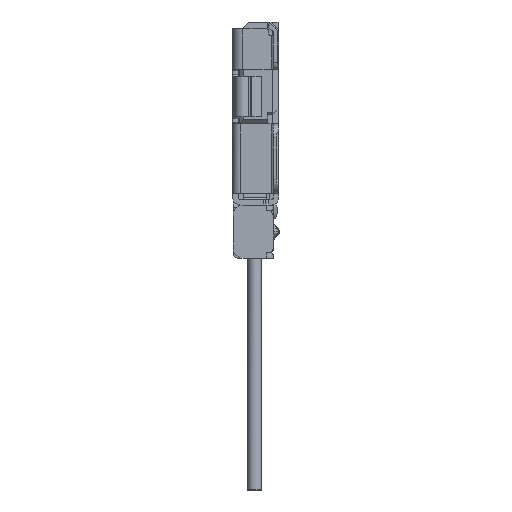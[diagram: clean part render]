
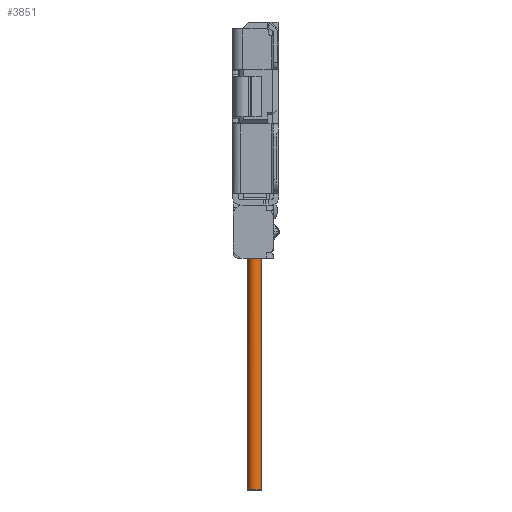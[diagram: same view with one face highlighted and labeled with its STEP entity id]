
A CAD part, left-side view. The second image highlights one B-rep face of the part: STEP entity #3851.
In plain terms, the highlighted cylindrical face has radius 0.155 mm (diameter 0.31 mm), a partial arc.
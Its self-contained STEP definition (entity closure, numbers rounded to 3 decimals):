
#51 = AXIS2_PLACEMENT_3D ( 'NONE', #26812, #32176, #43170 ) ;
#274 = DIRECTION ( 'NONE',  ( 0., 0., 1. ) ) ;
#892 = DIRECTION ( 'NONE',  ( 0., -1., 0. ) ) ;
#1001 = CARTESIAN_POINT ( 'NONE',  ( -4.75, 0.35, -2.47 ) ) ;
#3851 = ADVANCED_FACE ( 'NONE', ( #47129 ), #13537, .T. ) ;
#5783 = VERTEX_POINT ( 'NONE', #31870 ) ;
#5933 = ORIENTED_EDGE ( 'NONE', *, *, #43892, .F. ) ;
#8394 = EDGE_CURVE ( 'NONE', #68364, #49063, #17182, .T. ) ;
#9106 = LINE ( 'NONE', #32410, #29165 ) ;
#9646 = AXIS2_PLACEMENT_3D ( 'NONE', #58268, #52856, #63696 ) ;
#9834 = ORIENTED_EDGE ( 'NONE', *, *, #46546, .T. ) ;
#11499 = DIRECTION ( 'NONE',  ( 0., 0., 1. ) ) ;
#11524 = DIRECTION ( 'NONE',  ( 0., 0., -1. ) ) ;
#11607 = EDGE_CURVE ( 'NONE', #40379, #30812, #43159, .T. ) ;
#11950 = ORIENTED_EDGE ( 'NONE', *, *, #28896, .T. ) ;
#13537 = CYLINDRICAL_SURFACE ( 'NONE', #34856, 0.155 ) ;
#14842 = ORIENTED_EDGE ( 'NONE', *, *, #44666, .T. ) ;
#16944 = CARTESIAN_POINT ( 'NONE',  ( -4.75, 0.66, -7.6 ) ) ;
#17182 = CIRCLE ( 'NONE', #51, 0.155 ) ;
#18206 = EDGE_CURVE ( 'NONE', #30812, #68364, #54019, .T. ) ;
#18212 = VERTEX_POINT ( 'NONE', #67418 ) ;
#18579 = CARTESIAN_POINT ( 'NONE',  ( -4.75, 0.35, -7.6 ) ) ;
#18652 = ORIENTED_EDGE ( 'NONE', *, *, #18206, .T. ) ;
#19305 = VECTOR ( 'NONE', #48122, 1000. ) ;
#20760 = AXIS2_PLACEMENT_3D ( 'NONE', #54191, #59355, #37892 ) ;
#23140 = VECTOR ( 'NONE', #11524, 1000. ) ;
#23538 = CARTESIAN_POINT ( 'NONE',  ( -4.75, 0.35, -7.6 ) ) ;
#23765 = CIRCLE ( 'NONE', #20760, 0.155 ) ;
#25424 = VECTOR ( 'NONE', #29279, 1000. ) ;
#26812 = CARTESIAN_POINT ( 'NONE',  ( -4.75, 0.505, -2.47 ) ) ;
#27088 = VERTEX_POINT ( 'NONE', #40925 ) ;
#27587 = CARTESIAN_POINT ( 'NONE',  ( -4.9, 0.466, -2.11 ) ) ;
#28746 = CARTESIAN_POINT ( 'NONE',  ( -4.75, 0.505, -7.6 ) ) ;
#28896 = EDGE_CURVE ( 'NONE', #49063, #38181, #9106, .T. ) ;
#29165 = VECTOR ( 'NONE', #274, 1000. ) ;
#29279 = DIRECTION ( 'NONE',  ( 0., 0., 1. ) ) ;
#30262 = ORIENTED_EDGE ( 'NONE', *, *, #11607, .T. ) ;
#30812 = VERTEX_POINT ( 'NONE', #23538 ) ;
#31870 = CARTESIAN_POINT ( 'NONE',  ( -4.75, 0.66, -2.47 ) ) ;
#32176 = DIRECTION ( 'NONE',  ( 0., 0., -1. ) ) ;
#32410 = CARTESIAN_POINT ( 'NONE',  ( -4.9, 0.466, -2.47 ) ) ;
#34856 = AXIS2_PLACEMENT_3D ( 'NONE', #54692, #11499, #892 ) ;
#37892 = DIRECTION ( 'NONE',  ( 0., -1., 0. ) ) ;
#38181 = VERTEX_POINT ( 'NONE', #27587 ) ;
#38547 = ORIENTED_EDGE ( 'NONE', *, *, #66427, .T. ) ;
#38650 = CARTESIAN_POINT ( 'NONE',  ( -4.9, 0.544, -7.6 ) ) ;
#40379 = VERTEX_POINT ( 'NONE', #55746 ) ;
#40925 = CARTESIAN_POINT ( 'NONE',  ( -4.9, 0.544, -2.11 ) ) ;
#41317 = EDGE_LOOP ( 'NONE', ( #5933, #30262, #18652, #56911, #11950, #14842, #9834, #38547 ) ) ;
#43159 = CIRCLE ( 'NONE', #64174, 0.155 ) ;
#43170 = DIRECTION ( 'NONE',  ( 0., -1., 0. ) ) ;
#43892 = EDGE_CURVE ( 'NONE', #40379, #5783, #57961, .T. ) ;
#44666 = EDGE_CURVE ( 'NONE', #38181, #27088, #46847, .T. ) ;
#46546 = EDGE_CURVE ( 'NONE', #27088, #18212, #62639, .T. ) ;
#46654 = CARTESIAN_POINT ( 'NONE',  ( -4.9, 0.466, -2.47 ) ) ;
#46847 = CIRCLE ( 'NONE', #9646, 0.155 ) ;
#47129 = FACE_OUTER_BOUND ( 'NONE', #41317, .T. ) ;
#48122 = DIRECTION ( 'NONE',  ( 0., 0., 1. ) ) ;
#49063 = VERTEX_POINT ( 'NONE', #46654 ) ;
#52856 = DIRECTION ( 'NONE',  ( 0., 0., -1. ) ) ;
#54019 = LINE ( 'NONE', #18579, #25424 ) ;
#54191 = CARTESIAN_POINT ( 'NONE',  ( -4.75, 0.505, -2.47 ) ) ;
#54692 = CARTESIAN_POINT ( 'NONE',  ( -4.75, 0.505, -7.6 ) ) ;
#55746 = CARTESIAN_POINT ( 'NONE',  ( -4.75, 0.66, -7.6 ) ) ;
#56911 = ORIENTED_EDGE ( 'NONE', *, *, #8394, .T. ) ;
#57961 = LINE ( 'NONE', #16944, #19305 ) ;
#58268 = CARTESIAN_POINT ( 'NONE',  ( -4.75, 0.505, -2.11 ) ) ;
#59355 = DIRECTION ( 'NONE',  ( 0., 0., -1. ) ) ;
#60983 = DIRECTION ( 'NONE',  ( 0., 0., 1. ) ) ;
#62639 = LINE ( 'NONE', #38650, #23140 ) ;
#63696 = DIRECTION ( 'NONE',  ( 0., -1., 0. ) ) ;
#64174 = AXIS2_PLACEMENT_3D ( 'NONE', #28746, #60983, #67331 ) ;
#66427 = EDGE_CURVE ( 'NONE', #18212, #5783, #23765, .T. ) ;
#67331 = DIRECTION ( 'NONE',  ( 0., -1., 0. ) ) ;
#67418 = CARTESIAN_POINT ( 'NONE',  ( -4.9, 0.544, -2.47 ) ) ;
#68364 = VERTEX_POINT ( 'NONE', #1001 ) ;
